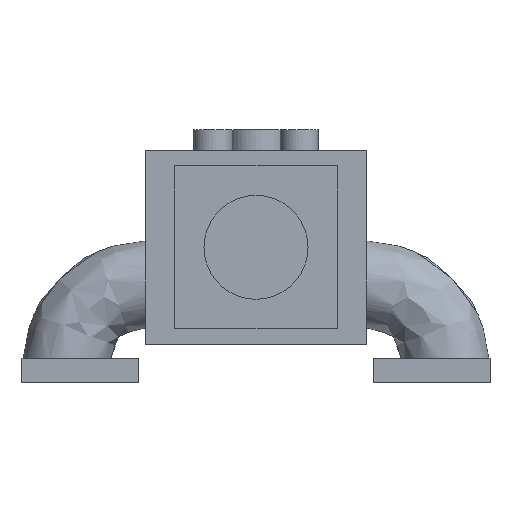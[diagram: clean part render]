
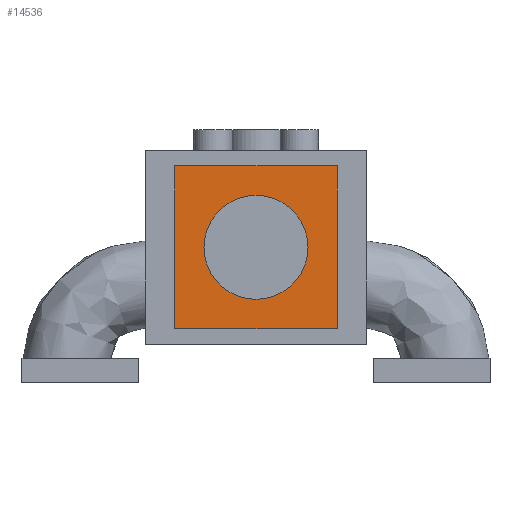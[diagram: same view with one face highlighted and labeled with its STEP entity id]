
A CAD part, left-side view. The second image highlights one B-rep face of the part: STEP entity #14536.
In plain terms, the highlighted planar face has unit normal (-1, 0, 0).
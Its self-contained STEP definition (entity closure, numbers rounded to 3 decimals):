
#158 = PLANE('',#159);
#159 = AXIS2_PLACEMENT_3D('',#160,#161,#162);
#160 = CARTESIAN_POINT('',(-16.5,-47.,448.953));
#161 = DIRECTION('',(0.,0.,-1.));
#162 = DIRECTION('',(-1.,0.,0.));
#186 = PLANE('',#187);
#187 = AXIS2_PLACEMENT_3D('',#188,#189,#190);
#188 = CARTESIAN_POINT('',(-16.5,-47.,542.953));
#189 = DIRECTION('',(0.,1.,0.));
#190 = DIRECTION('',(-1.,0.,0.));
#214 = PLANE('',#215);
#215 = AXIS2_PLACEMENT_3D('',#216,#217,#218);
#216 = CARTESIAN_POINT('',(-16.5,-47.,542.953));
#217 = DIRECTION('',(0.,0.,-1.));
#218 = DIRECTION('',(-1.,0.,0.));
#240 = PLANE('',#241);
#241 = AXIS2_PLACEMENT_3D('',#242,#243,#244);
#242 = CARTESIAN_POINT('',(-16.5,47.,542.953));
#243 = DIRECTION('',(0.,1.,0.));
#244 = DIRECTION('',(-1.,0.,0.));
#7421 = VERTEX_POINT('',#7422);
#7422 = CARTESIAN_POINT('',(-30.5,-47.,448.953));
#7443 = EDGE_CURVE('',#7421,#7444,#7446,.T.);
#7444 = VERTEX_POINT('',#7445);
#7445 = CARTESIAN_POINT('',(-30.5,47.,448.953));
#7446 = SURFACE_CURVE('',#7447,(#7451,#7458),.PCURVE_S1.);
#7447 = LINE('',#7448,#7449);
#7448 = CARTESIAN_POINT('',(-30.5,-47.,448.953));
#7449 = VECTOR('',#7450,1.);
#7450 = DIRECTION('',(0.,1.,0.));
#7451 = PCURVE('',#158,#7452);
#7452 = DEFINITIONAL_REPRESENTATION('',(#7453),#7457);
#7453 = LINE('',#7454,#7455);
#7454 = CARTESIAN_POINT('',(14.,0.));
#7455 = VECTOR('',#7456,1.);
#7456 = DIRECTION('',(0.,1.));
#7457 = ( GEOMETRIC_REPRESENTATION_CONTEXT(2) 
PARAMETRIC_REPRESENTATION_CONTEXT() REPRESENTATION_CONTEXT('2D SPACE',''
  ) );
#7458 = PCURVE('',#7459,#7464);
#7459 = PLANE('',#7460);
#7460 = AXIS2_PLACEMENT_3D('',#7461,#7462,#7463);
#7461 = CARTESIAN_POINT('',(-30.5,-47.,542.953));
#7462 = DIRECTION('',(-1.,0.,0.));
#7463 = DIRECTION('',(0.,1.,0.));
#7464 = DEFINITIONAL_REPRESENTATION('',(#7465),#7469);
#7465 = LINE('',#7466,#7467);
#7466 = CARTESIAN_POINT('',(0.,94.));
#7467 = VECTOR('',#7468,1.);
#7468 = DIRECTION('',(1.,0.));
#7469 = ( GEOMETRIC_REPRESENTATION_CONTEXT(2) 
PARAMETRIC_REPRESENTATION_CONTEXT() REPRESENTATION_CONTEXT('2D SPACE',''
  ) );
#7496 = VERTEX_POINT('',#7497);
#7497 = CARTESIAN_POINT('',(-30.5,47.,542.953));
#7520 = EDGE_CURVE('',#7496,#7444,#7521,.T.);
#7521 = SURFACE_CURVE('',#7522,(#7526,#7533),.PCURVE_S1.);
#7522 = LINE('',#7523,#7524);
#7523 = CARTESIAN_POINT('',(-30.5,47.,542.953));
#7524 = VECTOR('',#7525,1.);
#7525 = DIRECTION('',(0.,0.,-1.));
#7526 = PCURVE('',#240,#7527);
#7527 = DEFINITIONAL_REPRESENTATION('',(#7528),#7532);
#7528 = LINE('',#7529,#7530);
#7529 = CARTESIAN_POINT('',(14.,0.));
#7530 = VECTOR('',#7531,1.);
#7531 = DIRECTION('',(0.,-1.));
#7532 = ( GEOMETRIC_REPRESENTATION_CONTEXT(2) 
PARAMETRIC_REPRESENTATION_CONTEXT() REPRESENTATION_CONTEXT('2D SPACE',''
  ) );
#7533 = PCURVE('',#7459,#7534);
#7534 = DEFINITIONAL_REPRESENTATION('',(#7535),#7539);
#7535 = LINE('',#7536,#7537);
#7536 = CARTESIAN_POINT('',(94.,0.));
#7537 = VECTOR('',#7538,1.);
#7538 = DIRECTION('',(0.,1.));
#7539 = ( GEOMETRIC_REPRESENTATION_CONTEXT(2) 
PARAMETRIC_REPRESENTATION_CONTEXT() REPRESENTATION_CONTEXT('2D SPACE',''
  ) );
#7546 = VERTEX_POINT('',#7547);
#7547 = CARTESIAN_POINT('',(-30.5,-47.,542.953));
#7568 = EDGE_CURVE('',#7546,#7496,#7569,.T.);
#7569 = SURFACE_CURVE('',#7570,(#7574,#7581),.PCURVE_S1.);
#7570 = LINE('',#7571,#7572);
#7571 = CARTESIAN_POINT('',(-30.5,-47.,542.953));
#7572 = VECTOR('',#7573,1.);
#7573 = DIRECTION('',(0.,1.,0.));
#7574 = PCURVE('',#214,#7575);
#7575 = DEFINITIONAL_REPRESENTATION('',(#7576),#7580);
#7576 = LINE('',#7577,#7578);
#7577 = CARTESIAN_POINT('',(14.,0.));
#7578 = VECTOR('',#7579,1.);
#7579 = DIRECTION('',(0.,1.));
#7580 = ( GEOMETRIC_REPRESENTATION_CONTEXT(2) 
PARAMETRIC_REPRESENTATION_CONTEXT() REPRESENTATION_CONTEXT('2D SPACE',''
  ) );
#7581 = PCURVE('',#7459,#7582);
#7582 = DEFINITIONAL_REPRESENTATION('',(#7583),#7587);
#7583 = LINE('',#7584,#7585);
#7584 = CARTESIAN_POINT('',(0.,0.));
#7585 = VECTOR('',#7586,1.);
#7586 = DIRECTION('',(1.,0.));
#7587 = ( GEOMETRIC_REPRESENTATION_CONTEXT(2) 
PARAMETRIC_REPRESENTATION_CONTEXT() REPRESENTATION_CONTEXT('2D SPACE',''
  ) );
#7596 = EDGE_CURVE('',#7546,#7421,#7597,.T.);
#7597 = SURFACE_CURVE('',#7598,(#7602,#7609),.PCURVE_S1.);
#7598 = LINE('',#7599,#7600);
#7599 = CARTESIAN_POINT('',(-30.5,-47.,542.953));
#7600 = VECTOR('',#7601,1.);
#7601 = DIRECTION('',(0.,0.,-1.));
#7602 = PCURVE('',#186,#7603);
#7603 = DEFINITIONAL_REPRESENTATION('',(#7604),#7608);
#7604 = LINE('',#7605,#7606);
#7605 = CARTESIAN_POINT('',(14.,0.));
#7606 = VECTOR('',#7607,1.);
#7607 = DIRECTION('',(0.,-1.));
#7608 = ( GEOMETRIC_REPRESENTATION_CONTEXT(2) 
PARAMETRIC_REPRESENTATION_CONTEXT() REPRESENTATION_CONTEXT('2D SPACE',''
  ) );
#7609 = PCURVE('',#7459,#7610);
#7610 = DEFINITIONAL_REPRESENTATION('',(#7611),#7615);
#7611 = LINE('',#7612,#7613);
#7612 = CARTESIAN_POINT('',(0.,0.));
#7613 = VECTOR('',#7614,1.);
#7614 = DIRECTION('',(0.,1.));
#7615 = ( GEOMETRIC_REPRESENTATION_CONTEXT(2) 
PARAMETRIC_REPRESENTATION_CONTEXT() REPRESENTATION_CONTEXT('2D SPACE',''
  ) );
#14536 = ADVANCED_FACE('',(#14537,#14543),#7459,.T.);
#14537 = FACE_BOUND('',#14538,.T.);
#14538 = EDGE_LOOP('',(#14539,#14540,#14541,#14542));
#14539 = ORIENTED_EDGE('',*,*,#7596,.F.);
#14540 = ORIENTED_EDGE('',*,*,#7568,.T.);
#14541 = ORIENTED_EDGE('',*,*,#7520,.T.);
#14542 = ORIENTED_EDGE('',*,*,#7443,.F.);
#14543 = FACE_BOUND('',#14544,.T.);
#14544 = EDGE_LOOP('',(#14545));
#14545 = ORIENTED_EDGE('',*,*,#14546,.F.);
#14546 = EDGE_CURVE('',#14547,#14547,#14549,.T.);
#14547 = VERTEX_POINT('',#14548);
#14548 = CARTESIAN_POINT('',(-30.5,30.,495.953));
#14549 = SURFACE_CURVE('',#14550,(#14555,#14562),.PCURVE_S1.);
#14550 = CIRCLE('',#14551,30.);
#14551 = AXIS2_PLACEMENT_3D('',#14552,#14553,#14554);
#14552 = CARTESIAN_POINT('',(-30.5,0.,495.953));
#14553 = DIRECTION('',(-1.,0.,0.));
#14554 = DIRECTION('',(0.,1.,0.));
#14555 = PCURVE('',#7459,#14556);
#14556 = DEFINITIONAL_REPRESENTATION('',(#14557),#14561);
#14557 = CIRCLE('',#14558,30.);
#14558 = AXIS2_PLACEMENT_2D('',#14559,#14560);
#14559 = CARTESIAN_POINT('',(47.,47.));
#14560 = DIRECTION('',(1.,0.));
#14561 = ( GEOMETRIC_REPRESENTATION_CONTEXT(2) 
PARAMETRIC_REPRESENTATION_CONTEXT() REPRESENTATION_CONTEXT('2D SPACE',''
  ) );
#14562 = PCURVE('',#14563,#14568);
#14563 = CYLINDRICAL_SURFACE('',#14564,30.);
#14564 = AXIS2_PLACEMENT_3D('',#14565,#14566,#14567);
#14565 = CARTESIAN_POINT('',(-11.5,0.,495.953));
#14566 = DIRECTION('',(-1.,0.,0.));
#14567 = DIRECTION('',(0.,1.,0.));
#14568 = DEFINITIONAL_REPRESENTATION('',(#14569),#14573);
#14569 = LINE('',#14570,#14571);
#14570 = CARTESIAN_POINT('',(0.,19.));
#14571 = VECTOR('',#14572,1.);
#14572 = DIRECTION('',(1.,0.));
#14573 = ( GEOMETRIC_REPRESENTATION_CONTEXT(2) 
PARAMETRIC_REPRESENTATION_CONTEXT() REPRESENTATION_CONTEXT('2D SPACE',''
  ) );
